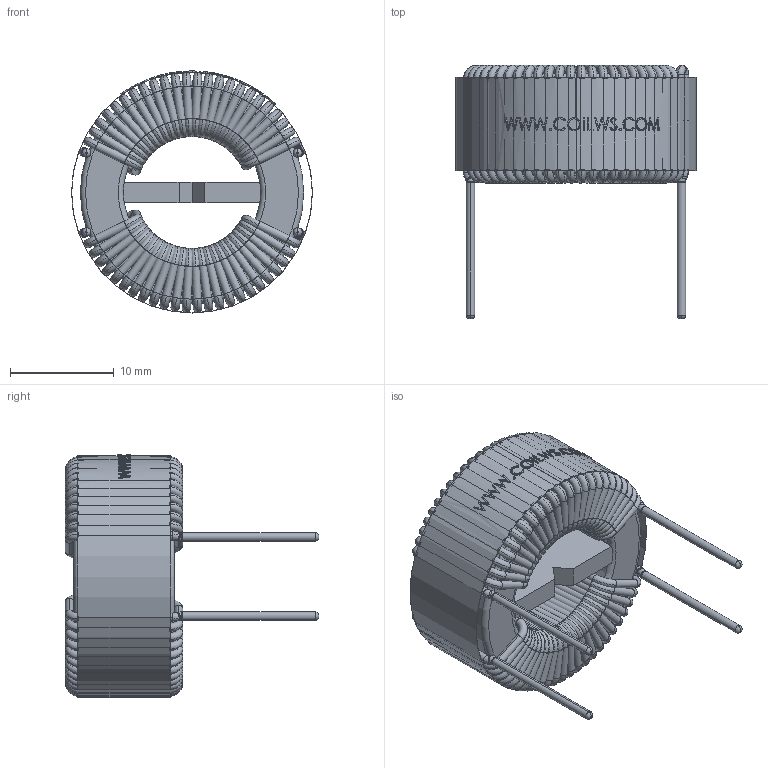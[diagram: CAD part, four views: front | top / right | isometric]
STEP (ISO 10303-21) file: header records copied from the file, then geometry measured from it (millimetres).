
FILE_DESCRIPTION (( 'STEP AP203' ), '1' );
FILE_NAME ('CM-322U-3A-SW.STEP', '2021-02-04T13:41:55', ( 'Windows User' ), ( '' ), 'SwSTEP 2.0', 'SolidWorks 2015', '' );
FILE_SCHEMA (( 'CONFIG_CONTROL_DESIGN' ));
Length unit declared in the file: inch
Products named in the file (4): CM-322U-3A-SPACER-SW; CM-322U-3A-CORE-SW; CM-322U-3A-SW; CM-322U-3A-COIL-SW
Assembly tree (3 placements, depth 2):
  CM-322U-3A-SW
    CM-322U-3A-CORE-SW
    CM-322U-3A-COIL-SW
    CM-322U-3A-SPACER-SW
Bounding box: 23.2 x 24.4 x 23.3 mm (x, y, z)
Volume: 3233.2 mm3; surface area: 7130.5 mm2
Topology: 111 solids, 111 shells, 1441 faces, 3600 edges, 2396 vertices
Faces by surface type: cylinder 650, torus 426, plane 262, bspline 103
Entity records: 49438 total; most frequent: CARTESIAN_POINT 13068, DIRECTION 8538, ORIENTED_EDGE 7200, AXIS2_PLACEMENT_3D 3934, EDGE_CURVE 3600, CIRCLE 2590, VERTEX_POINT 2396, EDGE_LOOP 1460
